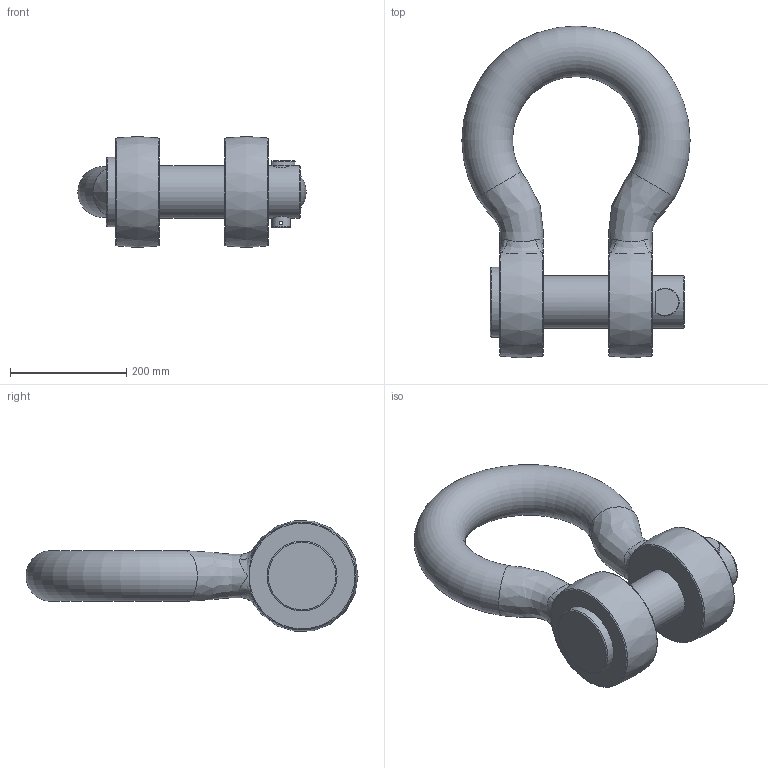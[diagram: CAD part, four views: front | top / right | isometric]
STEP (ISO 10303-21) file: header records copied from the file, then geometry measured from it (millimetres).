
FILE_DESCRIPTION(/* description */ (''),/* implementation_level */ '2;1');
FILE_NAME(/* name */ 'C:\Users\D\Documents\Inventor\HP\吊具\シャックル\BA_2\ba_75.stp',/* time_stamp */ '2024-11-20T10:44:55+09:00',/* author */ ('D'),/* organization */ (''),/* preprocessor_version */ 'ST-DEVELOPER v18',/* originating_system */ 'Autodesk Inventor 2020',/* authorisation */ '');
FILE_SCHEMA (('AUTOMOTIVE_DESIGN { 1 0 10303 214 3 1 1 }'));
Length unit declared in the file: millimetre
Products named in the file (4): ba_75; ba_6; ba-sa_pin1_34; ba-sa_pin2_34
Assembly tree (3 placements, depth 2):
  ba_75
    ba_6
    ba-sa_pin1_34
    ba-sa_pin2_34
Bounding box: 392 x 570 x 190.51 mm (x, y, z)
Volume: 10485228.3 mm3; surface area: 603316.5 mm2
Topology: 5 solids, 5 shells, 44 faces, 125 edges, 88 vertices
Faces by surface type: plane 15, bspline 12, torus 9, cylinder 8
Full cylindrical faces by diameter (mm): 6 x1, 32 x1, 33 x1, 90 x1, 92 x2, 120 x1
Entity records: 3615 total; most frequent: CARTESIAN_POINT 2365, ORIENTED_EDGE 244, DIRECTION 227, EDGE_CURVE 122, AXIS2_PLACEMENT_3D 107, VERTEX_POINT 88, CIRCLE 68, EDGE_LOOP 52
